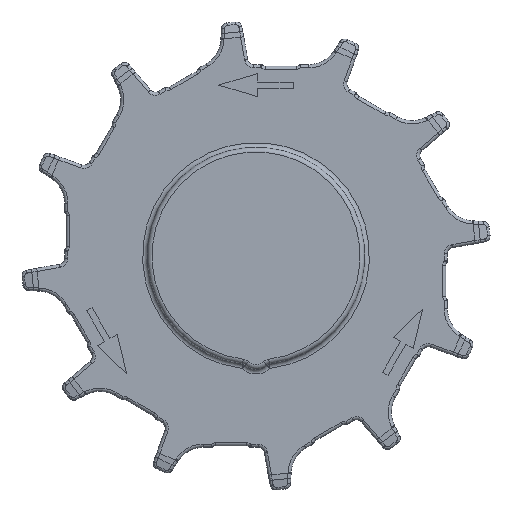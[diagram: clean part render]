
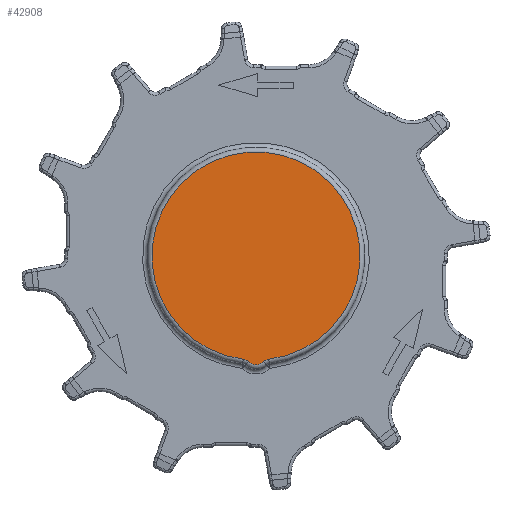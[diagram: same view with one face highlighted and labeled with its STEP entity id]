
A CAD part, front view. The second image highlights one B-rep face of the part: STEP entity #42908.
In plain terms, the highlighted planar face has unit normal (0, -1, 0).
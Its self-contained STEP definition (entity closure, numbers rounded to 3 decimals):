
#14156=CARTESIAN_POINT('',(0.,-19.5,0.));
#14157=DIRECTION('',(0.,-1.,0.));
#14158=DIRECTION('',(0.122,0.,-0.992));
#14159=AXIS2_PLACEMENT_3D('',#14156,#14157,#14158);
#14161=CARTESIAN_POINT('',(4.462,-19.5,-36.226));
#14162=DIRECTION('',(0.,-1.,0.));
#14163=DIRECTION('',(-0.122,0.,0.992));
#14164=AXIS2_PLACEMENT_3D('',#14161,#14162,#14163);
#14166=CARTESIAN_POINT('',(0.,-19.5,-31.5));
#14167=DIRECTION('',(0.,-1.,0.));
#14168=DIRECTION('',(-0.687,0.,-0.727));
#14169=AXIS2_PLACEMENT_3D('',#14166,#14167,#14168);
#14171=CARTESIAN_POINT('',(-4.462,-19.5,-36.226));
#14172=DIRECTION('',(0.,-1.,0.));
#14173=DIRECTION('',(0.687,0.,0.727));
#14174=AXIS2_PLACEMENT_3D('',#14171,#14172,#14173);
#19546=CARTESIAN_POINT('',(4.096,-19.5,-33.249));
#19547=CARTESIAN_POINT('',(-4.096,-19.5,-33.249));
#19548=VERTEX_POINT('',#19546);
#19549=VERTEX_POINT('',#19547);
#19562=CARTESIAN_POINT('',(-2.403,-19.5,-34.045));
#19563=CARTESIAN_POINT('',(2.403,-19.5,-34.045));
#19564=VERTEX_POINT('',#19562);
#19565=VERTEX_POINT('',#19563);
#42895=CARTESIAN_POINT('',(0.,-19.5,0.));
#42896=DIRECTION('',(0.,1.,0.));
#42897=DIRECTION('',(1.,0.,0.));
#42898=AXIS2_PLACEMENT_3D('',#42895,#42896,#42897);
#42899=PLANE('',#42898);
#42900=ORIENTED_EDGE('',*,*,#42873,.F.);
#42901=ORIENTED_EDGE('',*,*,#42885,.T.);
#42903=ORIENTED_EDGE('',*,*,#42902,.F.);
#42905=ORIENTED_EDGE('',*,*,#42904,.T.);
#42906=EDGE_LOOP('',(#42900,#42901,#42903,#42905));
#42907=FACE_OUTER_BOUND('',#42906,.F.);
#14160=CIRCLE('',#14159,33.5);
#14165=CIRCLE('',#14164,3.);
#14170=CIRCLE('',#14169,3.5);
#14175=CIRCLE('',#14174,3.);
#42873=EDGE_CURVE('',#19548,#19549,#14160,.T.);
#42885=EDGE_CURVE('',#19548,#19565,#14165,.T.);
#42902=EDGE_CURVE('',#19564,#19565,#14170,.T.);
#42904=EDGE_CURVE('',#19564,#19549,#14175,.T.);
#42908=ADVANCED_FACE('',(#42907),#42899,.F.);
